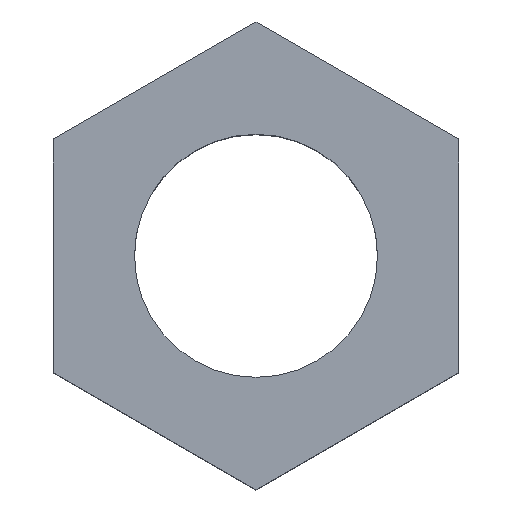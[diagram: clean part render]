
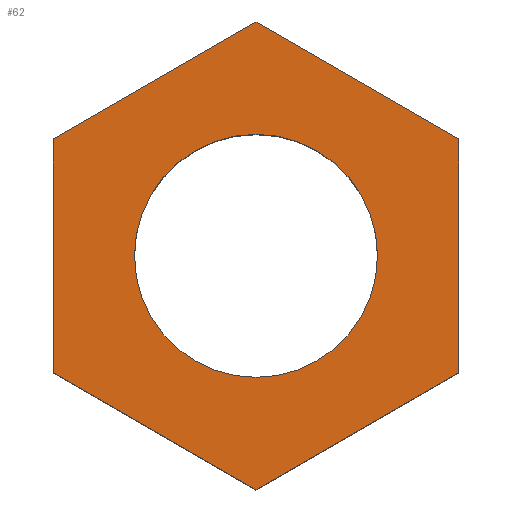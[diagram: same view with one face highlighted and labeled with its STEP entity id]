
A CAD part, top view. The second image highlights one B-rep face of the part: STEP entity #62.
In plain terms, the highlighted planar face has unit normal (0, 0, 1).
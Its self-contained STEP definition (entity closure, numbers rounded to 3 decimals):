
#2 = DIRECTION ( 'NONE',  ( -1., 0., 0. ) ) ;
#25 = VECTOR ( 'NONE', #455, 1000. ) ;
#26 = DIRECTION ( 'NONE',  ( 0., 0., -1. ) ) ;
#30 = VERTEX_POINT ( 'NONE', #475 ) ;
#32 = PLANE ( 'NONE',  #234 ) ;
#33 = CARTESIAN_POINT ( 'NONE',  ( 0., 9.815, 0. ) ) ;
#37 = CARTESIAN_POINT ( 'NONE',  ( -5.1, 0., 0. ) ) ;
#47 = EDGE_CURVE ( 'NONE', #190, #296, #391, .T. ) ;
#51 = VERTEX_POINT ( 'NONE', #291 ) ;
#52 = EDGE_LOOP ( 'NONE', ( #423, #316, #465, #193, #240, #71 ) ) ;
#60 = CARTESIAN_POINT ( 'NONE',  ( 4.25, 7.361, 0. ) ) ;
#62 = ADVANCED_FACE ( 'NONE', ( #470, #252 ), #32, .T. ) ;
#64 = DIRECTION ( 'NONE',  ( -0.866, -0.5, 0. ) ) ;
#67 = CARTESIAN_POINT ( 'NONE',  ( -8.5, -4.907, 0. ) ) ;
#71 = ORIENTED_EDGE ( 'NONE', *, *, #76, .T. ) ;
#76 = EDGE_CURVE ( 'NONE', #30, #394, #207, .T. ) ;
#78 = VERTEX_POINT ( 'NONE', #204 ) ;
#80 = VECTOR ( 'NONE', #364, 1000. ) ;
#95 = AXIS2_PLACEMENT_3D ( 'NONE', #108, #26, #208 ) ;
#97 = DIRECTION ( 'NONE',  ( 0., 1., 0. ) ) ;
#100 = EDGE_CURVE ( 'NONE', #51, #122, #439, .T. ) ;
#108 = CARTESIAN_POINT ( 'NONE',  ( 0., 0., 0. ) ) ;
#122 = VERTEX_POINT ( 'NONE', #447 ) ;
#140 = DIRECTION ( 'NONE',  ( -0.866, 0.5, 0. ) ) ;
#141 = VECTOR ( 'NONE', #97, 1000. ) ;
#143 = CARTESIAN_POINT ( 'NONE',  ( 0., 0., 0. ) ) ;
#150 = EDGE_CURVE ( 'NONE', #394, #51, #214, .T. ) ;
#190 = VERTEX_POINT ( 'NONE', #218 ) ;
#193 = ORIENTED_EDGE ( 'NONE', *, *, #47, .T. ) ;
#202 = VERTEX_POINT ( 'NONE', #37 ) ;
#204 = CARTESIAN_POINT ( 'NONE',  ( 5.1, 0., 0. ) ) ;
#207 = LINE ( 'NONE', #328, #80 ) ;
#208 = DIRECTION ( 'NONE',  ( -1., 0., 0. ) ) ;
#209 = DIRECTION ( 'NONE',  ( 0., 0., 1. ) ) ;
#214 = LINE ( 'NONE', #478, #25 ) ;
#217 = EDGE_CURVE ( 'NONE', #78, #202, #442, .T. ) ;
#218 = CARTESIAN_POINT ( 'NONE',  ( 8.5, 4.907, 0. ) ) ;
#227 = AXIS2_PLACEMENT_3D ( 'NONE', #143, #293, #2 ) ;
#234 = AXIS2_PLACEMENT_3D ( 'NONE', #443, #209, #320 ) ;
#240 = ORIENTED_EDGE ( 'NONE', *, *, #260, .T. ) ;
#249 = CARTESIAN_POINT ( 'NONE',  ( 4.25, -7.361, 0. ) ) ;
#252 = FACE_OUTER_BOUND ( 'NONE', #52, .T. ) ;
#260 = EDGE_CURVE ( 'NONE', #296, #30, #460, .T. ) ;
#272 = EDGE_LOOP ( 'NONE', ( #403, #412 ) ) ;
#282 = LINE ( 'NONE', #433, #141 ) ;
#291 = CARTESIAN_POINT ( 'NONE',  ( 0., -9.815, 0. ) ) ;
#293 = DIRECTION ( 'NONE',  ( 0., 0., -1. ) ) ;
#296 = VERTEX_POINT ( 'NONE', #33 ) ;
#315 = VECTOR ( 'NONE', #397, 1000. ) ;
#316 = ORIENTED_EDGE ( 'NONE', *, *, #100, .T. ) ;
#320 = DIRECTION ( 'NONE',  ( 1., 0., 0. ) ) ;
#328 = CARTESIAN_POINT ( 'NONE',  ( -8.5, 0., 0. ) ) ;
#355 = EDGE_CURVE ( 'NONE', #202, #78, #487, .T. ) ;
#361 = CARTESIAN_POINT ( 'NONE',  ( -4.25, 7.361, 0. ) ) ;
#364 = DIRECTION ( 'NONE',  ( 0., -1., 0. ) ) ;
#381 = VECTOR ( 'NONE', #64, 1000. ) ;
#391 = LINE ( 'NONE', #60, #450 ) ;
#394 = VERTEX_POINT ( 'NONE', #67 ) ;
#397 = DIRECTION ( 'NONE',  ( 0.866, 0.5, 0. ) ) ;
#403 = ORIENTED_EDGE ( 'NONE', *, *, #355, .T. ) ;
#408 = EDGE_CURVE ( 'NONE', #122, #190, #282, .T. ) ;
#412 = ORIENTED_EDGE ( 'NONE', *, *, #217, .T. ) ;
#423 = ORIENTED_EDGE ( 'NONE', *, *, #150, .T. ) ;
#433 = CARTESIAN_POINT ( 'NONE',  ( 8.5, 0., 0. ) ) ;
#439 = LINE ( 'NONE', #249, #315 ) ;
#442 = CIRCLE ( 'NONE', #227, 5.1 ) ;
#443 = CARTESIAN_POINT ( 'NONE',  ( 0., 0., 0. ) ) ;
#447 = CARTESIAN_POINT ( 'NONE',  ( 8.5, -4.907, 0. ) ) ;
#450 = VECTOR ( 'NONE', #140, 1000. ) ;
#455 = DIRECTION ( 'NONE',  ( 0.866, -0.5, 0. ) ) ;
#460 = LINE ( 'NONE', #361, #381 ) ;
#465 = ORIENTED_EDGE ( 'NONE', *, *, #408, .T. ) ;
#470 = FACE_BOUND ( 'NONE', #272, .T. ) ;
#475 = CARTESIAN_POINT ( 'NONE',  ( -8.5, 4.907, 0. ) ) ;
#478 = CARTESIAN_POINT ( 'NONE',  ( -4.25, -7.361, 0. ) ) ;
#487 = CIRCLE ( 'NONE', #95, 5.1 ) ;
